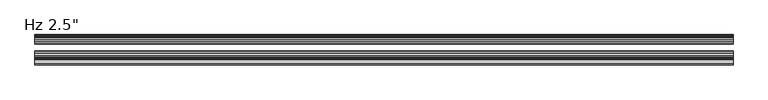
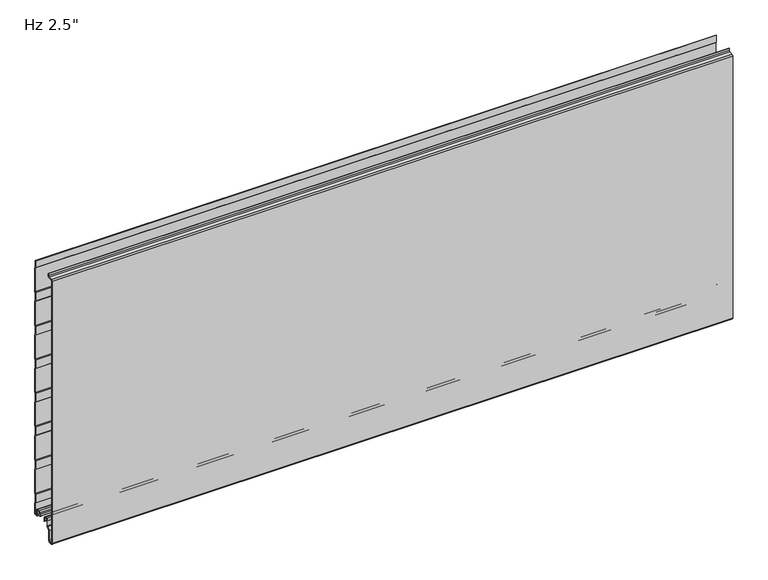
"""IFC4 building model written with IfcOpenShell, lengths in millimetres: plate geometry."""

from ifc_helpers import new_model, si_unit, point, frame, frame_2d, origin, place, context, project, spatial, polyline, circle_curve, trimmed, segment, composite_curve, outline, extrude, source, transform, mapped, element, save
from ifc_brep_helpers import plane_surface, cylinder_surface, revolved_surface, advanced_brep


def plate_c49b3873(model_context):
    return source(origin(), model_context, "Body", "SolidModel", [
        advanced_brep(
        [(-730.0, -17.0015368, 2.0313088), (-730.0, -18.00154, 1.0313116), (-730.0, -19.0015313, 2.0313088), (-730.0, -19.0015314, 6.0315125), (-730.0, -18.0015368, 6.0315125), (-730.0, -18.0015368, 8.7237223), (-730.0, -14.7015411, 12.023718), (-730.0, -10.3015499, 12.023718), (-730.0, -7.0015544, 8.7237225), (-730.0, -7.0015544, -1.6962564), (-730.0, -5.2315602, -3.4662506), (-730.0, -1.0000126, -3.4662506), (-730.0, -1.0000126, 21.034026), (-730.0, -2.2002516, 22.4196686), (-730.0, -2.2002516, 41.7948349), (-730.0, -1.0000209, 43.1804679), (-730.0, -1.0000209, 97.2338833), (-730.0, -2.2002516, 98.6195162), (-730.0, -2.2002516, 117.9946825), (-730.0, -1.0000209, 119.3803155), (-730.0, -1.0000209, 173.4337309), (-730.0, -2.2002516, 174.8193638), (-730.0, -2.2002516, 194.1945301), (-730.0, -1.0000209, 195.5801631), (-730.0, -1.0000209, 249.6335785), (-730.0, -2.2002516, 251.0192114), (-730.0, -2.2002516, 270.3943777), (-730.0, -1.0000209, 271.7800107), (-730.0, -1.0000209, 325.8334261), (-730.0, -2.2002516, 327.219059), (-730.0, -2.2002516, 346.5942253), (-730.0, -1.0000209, 347.9798583), (-730.0, -1.0000209, 402.0332737), (-730.0, -2.2002516, 403.4189066), (-730.0, -2.2002516, 422.7940729), (-730.0, -1.0000209, 424.1797059), (-730.0, -1.0000209, 478.2331213), (-730.0, -2.2002516, 479.6187542), (-730.0, -2.2002516, 498.9939205), (-730.0, -1.0000209, 500.3795535), (-730.0, -1.0000209, 554.4329689), (-730.0, -2.2002516, 555.8186018), (-730.0, -2.2002516, 571.2), (-730.0, -1.2002516, 571.2), (-730.0, -1.2002516, 556.1914823), (-730.0, -0.3418094, 555.2004346), (-730.0, -2.09e-05, 554.2838177), (-730.0, -2.09e-05, 500.5287046), (-730.0, -0.3418094, 499.6120877), (-730.0, -1.2002516, 498.6210401), (-730.0, -1.2002516, 479.9916347), (-730.0, -0.3418094, 479.000587), (-730.0, -2.09e-05, 478.0839701), (-730.0, -2.09e-05, 424.328857), (-730.0, -0.3418094, 423.4122401), (-730.0, -1.2002516, 422.4211925), (-730.0, -1.2002516, 403.7917871), (-730.0, -0.3418094, 402.8007394), (-730.0, -2.09e-05, 401.8841225), (-730.0, -2.09e-05, 348.1290094), (-730.0, -0.3418094, 347.2123925), (-730.0, -1.2002516, 346.2213449), (-730.0, -1.2002516, 327.5919395), (-730.0, -0.3418094, 326.6008918), (-730.0, -2.09e-05, 325.6842749), (-730.0, -2.09e-05, 271.9291618), (-730.0, -0.3418094, 271.0125449), (-730.0, -1.2002516, 270.0214973), (-730.0, -1.2002516, 251.3920919), (-730.0, -0.3418094, 250.4010442), (-730.0, -2.09e-05, 249.4844273), (-730.0, -2.09e-05, 195.7293142), (-730.0, -0.3418094, 194.8126973), (-730.0, -1.2002516, 193.8216497), (-730.0, -1.2002516, 175.1922443), (-730.0, -0.3418094, 174.2011966), (-730.0, -2.09e-05, 173.2845797), (-730.0, -2.09e-05, 119.5294666), (-730.0, -0.3418094, 118.6128497), (-730.0, -1.2002516, 117.6218021), (-730.0, -1.2002516, 98.9923967), (-730.0, -0.3418094, 98.001349), (-730.0, -2.09e-05, 97.0847321), (-730.0, -2.09e-05, 43.329619), (-730.0, -0.3418094, 42.4130021), (-730.0, -1.2002516, 41.4219545), (-730.0, -1.2002516, 22.7925491), (-730.0, -0.3418094, 21.8015014), (-730.0, -2.09e-05, 20.8847931), (-730.0, -1.26e-05, -3.0662545), (-730.0, -1.4000087, -4.4662506), (-730.0, -5.2315602, -4.4662506), (-730.0, -8.0015544, -1.6962564), (-730.0, -8.0015544, 8.7237225), (-730.0, -10.3015499, 11.023718), (-730.0, -14.7015411, 11.023718), (-730.0, -17.0015368, 8.7237223), (730.0, -17.0015368, 2.0313088), (730.0, -17.0015368, 8.7237223), (730.0, -14.7015411, 11.023718), (730.0, -10.3015499, 11.023718), (730.0, -8.0015544, 8.7237225), (730.0, -8.0015544, -1.6962564), (730.0, -5.2315602, -4.4662506), (730.0, -1.4000087, -4.4662506), (730.0, -1.26e-05, -3.0662545), (730.0, -1.26e-05, 20.8848845), (730.0, -0.3418094, 21.8015014), (730.0, -1.2002516, 22.7925491), (730.0, -1.2002516, 41.4219545), (730.0, -0.3418094, 42.4130021), (730.0, -2.09e-05, 43.329619), (730.0, -2.09e-05, 97.0847321), (730.0, -0.3418094, 98.001349), (730.0, -1.2002516, 98.9923967), (730.0, -1.2002516, 117.6218021), (730.0, -0.3418094, 118.6128497), (730.0, -2.09e-05, 119.5294666), (730.0, -2.09e-05, 173.2845797), (730.0, -0.3418094, 174.2011966), (730.0, -1.2002516, 175.1922443), (730.0, -1.2002516, 193.8216497), (730.0, -0.3418094, 194.8126973), (730.0, -2.09e-05, 195.7293142), (730.0, -2.09e-05, 249.4844273), (730.0, -0.3418094, 250.4010442), (730.0, -1.2002516, 251.3920919), (730.0, -1.2002516, 270.0214973), (730.0, -0.3418094, 271.0125449), (730.0, -2.09e-05, 271.9291618), (730.0, -2.09e-05, 325.6842749), (730.0, -0.3418094, 326.6008918), (730.0, -1.2002516, 327.5919395), (730.0, -1.2002516, 346.2213449), (730.0, -0.3418094, 347.2123925), (730.0, -2.09e-05, 348.1290094), (730.0, -2.09e-05, 401.8841225), (730.0, -0.3418094, 402.8007394), (730.0, -1.2002516, 403.7917871), (730.0, -1.2002516, 422.4211925), (730.0, -0.3418094, 423.4122401), (730.0, -2.09e-05, 424.328857), (730.0, -2.09e-05, 478.0839701), (730.0, -0.3418094, 479.000587), (730.0, -1.2002516, 479.9916347), (730.0, -1.2002516, 498.6210401), (730.0, -0.3418094, 499.6120877), (730.0, -2.09e-05, 500.5287046), (730.0, -2.09e-05, 554.2838177), (730.0, -0.3418094, 555.2004346), (730.0, -1.2002516, 556.1914823), (730.0, -1.2002516, 571.2), (730.0, -2.2002516, 571.2), (730.0, -2.2002516, 555.8186018), (730.0, -1.0000209, 554.4329689), (730.0, -1.0000209, 500.3795535), (730.0, -2.2002516, 498.9939205), (730.0, -2.2002516, 479.6187542), (730.0, -1.0000209, 478.2331213), (730.0, -1.0000209, 424.1797059), (730.0, -2.2002516, 422.7940729), (730.0, -2.2002516, 403.4189066), (730.0, -1.0000209, 402.0332737), (730.0, -1.0000209, 347.9798583), (730.0, -2.2002516, 346.5942253), (730.0, -2.2002516, 327.219059), (730.0, -1.0000209, 325.8334261), (730.0, -1.0000209, 271.7800107), (730.0, -2.2002516, 270.3943777), (730.0, -2.2002516, 251.0192114), (730.0, -1.0000209, 249.6335785), (730.0, -1.0000209, 195.5801631), (730.0, -2.2002516, 194.1945301), (730.0, -2.2002516, 174.8193638), (730.0, -1.0000209, 173.4337309), (730.0, -1.0000209, 119.3803155), (730.0, -2.2002516, 117.9946825), (730.0, -2.2002516, 98.6195162), (730.0, -1.0000209, 97.2338833), (730.0, -1.0000209, 43.1804679), (730.0, -2.2002516, 41.7948349), (730.0, -2.2002516, 22.4196686), (730.0, -1.0000126, 21.034026), (730.0, -1.0000126, -3.4662506), (730.0, -5.2315602, -3.4662506), (730.0, -7.0015544, -1.6962564), (730.0, -7.0015544, 8.7237225), (730.0, -10.3015499, 12.023718), (730.0, -14.7015411, 12.023718), (730.0, -18.0015368, 8.7237223), (730.0, -18.0015368, 6.0315125), (730.0, -19.0015314, 6.0315125), (730.0, -19.0015314, 2.0313088), (730.0, -18.00154, 1.0313116)],
        [
            (0, 1, circle_curve(frame((-730.0, -18.0015341, 2.0313088), z_axis=(-1.0, 0.0, 0.0), x_axis=(0.0, 0.0, 1.0)), 0.9999973)),
            (1, 2, circle_curve(frame((-730.0, -18.0015341, 2.0313088), z_axis=(-1.0, 0.0, 0.0), x_axis=(0.0, 0.0, 1.0)), 0.9999972)),
            (2, 3),
            (3, 4),
            (4, 5),
            (5, 6, circle_curve(frame((-730.0, -14.7015411, 8.7237223), z_axis=(-1.0, 0.0, 0.0), x_axis=(0.0, 0.0, 1.0)), 3.2999957)),
            (6, 7),
            (7, 8, circle_curve(frame((-730.0, -10.3015499, 8.7237225), z_axis=(-1.0, 0.0, 0.0), x_axis=(0.0, 0.0, 1.0)), 3.2999955)),
            (8, 9),
            (9, 10, circle_curve(frame((-730.0, -5.2315602, -1.6962564), z_axis=(1.0, 0.0, 0.0), x_axis=(0.0, 0.0, 1.0)), 1.7699942)),
            (10, 11),
            (11, 12),
            (12, 13),
            (13, 14),
            (14, 15),
            (15, 16),
            (16, 17),
            (17, 18),
            (18, 19),
            (19, 20),
            (20, 21),
            (21, 22),
            (22, 23),
            (23, 24),
            (24, 25),
            (25, 26),
            (26, 27),
            (27, 28),
            (28, 29),
            (29, 30),
            (30, 31),
            (31, 32),
            (32, 33),
            (33, 34),
            (34, 35),
            (35, 36),
            (36, 37),
            (37, 38),
            (38, 39),
            (39, 40),
            (40, 41),
            (41, 42),
            (42, 43),
            (43, 44),
            (44, 45),
            (45, 46, circle_curve(frame((-730.0, -1.4000181, 554.2838177), z_axis=(-1.0, 0.0, 0.0), x_axis=(0.0, 0.0, 1.0)), 1.3999972)),
            (46, 47),
            (47, 48, circle_curve(frame((-730.0, -1.4000181, 500.5287046), z_axis=(-1.0, 0.0, 0.0), x_axis=(0.0, 0.0, 1.0)), 1.3999972)),
            (48, 49),
            (49, 50),
            (50, 51),
            (51, 52, circle_curve(frame((-730.0, -1.4000181, 478.0839701), z_axis=(-1.0, 0.0, 0.0), x_axis=(0.0, 0.0, 1.0)), 1.3999972)),
            (52, 53),
            (53, 54, circle_curve(frame((-730.0, -1.4000181, 424.328857), z_axis=(-1.0, 0.0, 0.0), x_axis=(0.0, 0.0, 1.0)), 1.3999972)),
            (54, 55),
            (55, 56),
            (56, 57),
            (57, 58, circle_curve(frame((-730.0, -1.4000181, 401.8841225), z_axis=(-1.0, 0.0, 0.0), x_axis=(0.0, 0.0, 1.0)), 1.3999972)),
            (58, 59),
            (59, 60, circle_curve(frame((-730.0, -1.4000181, 348.1290094), z_axis=(-1.0, 0.0, 0.0), x_axis=(0.0, 0.0, 1.0)), 1.3999972)),
            (60, 61),
            (61, 62),
            (62, 63),
            (63, 64, circle_curve(frame((-730.0, -1.4000181, 325.6842749), z_axis=(-1.0, 0.0, 0.0), x_axis=(0.0, 0.0, 1.0)), 1.3999972)),
            (64, 65),
            (65, 66, circle_curve(frame((-730.0, -1.4000181, 271.9291618), z_axis=(-1.0, 0.0, 0.0), x_axis=(0.0, 0.0, 1.0)), 1.3999972)),
            (66, 67),
            (67, 68),
            (68, 69),
            (69, 70, circle_curve(frame((-730.0, -1.4000181, 249.4844273), z_axis=(-1.0, 0.0, 0.0), x_axis=(0.0, 0.0, 1.0)), 1.3999972)),
            (70, 71),
            (71, 72, circle_curve(frame((-730.0, -1.4000181, 195.7293142), z_axis=(-1.0, 0.0, 0.0), x_axis=(0.0, 0.0, 1.0)), 1.3999972)),
            (72, 73),
            (73, 74),
            (74, 75),
            (75, 76, circle_curve(frame((-730.0, -1.4000181, 173.2845797), z_axis=(-1.0, 0.0, 0.0), x_axis=(0.0, 0.0, 1.0)), 1.3999972)),
            (76, 77),
            (77, 78, circle_curve(frame((-730.0, -1.4000181, 119.5294666), z_axis=(-1.0, 0.0, 0.0), x_axis=(0.0, 0.0, 1.0)), 1.3999972)),
            (78, 79),
            (79, 80),
            (80, 81),
            (81, 82, circle_curve(frame((-730.0, -1.4000181, 97.0847321), z_axis=(-1.0, 0.0, 0.0), x_axis=(0.0, 0.0, 1.0)), 1.3999972)),
            (82, 83),
            (83, 84, circle_curve(frame((-730.0, -1.4000181, 43.329619), z_axis=(-1.0, 0.0, 0.0), x_axis=(0.0, 0.0, 1.0)), 1.3999972)),
            (84, 85),
            (85, 86),
            (86, 87),
            (87, 88, circle_curve(frame((-730.0, -1.4000181, 20.8848845), z_axis=(-1.0, 0.0, 0.0), x_axis=(0.0, 0.0, 1.0)), 1.3999972)),
            (88, 89),
            (89, 90, circle_curve(frame((-730.0, -1.4000087, -3.0662545), z_axis=(-1.0, 0.0, 0.0), x_axis=(0.0, 0.0, 1.0)), 1.3999962)),
            (90, 91),
            (91, 92, circle_curve(frame((-730.0, -5.2315602, -1.6962564), z_axis=(-1.0, 0.0, 0.0), x_axis=(0.0, 0.0, 1.0)), 2.7699942)),
            (92, 93),
            (93, 94, circle_curve(frame((-730.0, -10.3015499, 8.7237225), z_axis=(1.0, 0.0, 0.0), x_axis=(0.0, 0.0, 1.0)), 2.2999955)),
            (94, 95),
            (95, 96, circle_curve(frame((-730.0, -14.7015411, 8.7237223), z_axis=(1.0, 0.0, 0.0), x_axis=(0.0, 0.0, 1.0)), 2.2999957)),
            (96, 0),
            (97, 98),
            (98, 99, circle_curve(frame((730.0, -14.7015411, 8.7237223), z_axis=(-1.0, 0.0, 0.0), x_axis=(0.0, 0.0, 1.0)), 2.2999957)),
            (99, 100),
            (100, 101, circle_curve(frame((730.0, -10.3015499, 8.7237225), z_axis=(-1.0, 0.0, 0.0), x_axis=(0.0, 0.0, 1.0)), 2.2999955)),
            (101, 102),
            (102, 103, circle_curve(frame((730.0, -5.2315602, -1.6962564), z_axis=(1.0, 0.0, 0.0), x_axis=(0.0, 0.0, 1.0)), 2.7699942)),
            (103, 104),
            (104, 105, circle_curve(frame((730.0, -1.4000087, -3.0662545), z_axis=(1.0, 0.0, 0.0), x_axis=(0.0, 0.0, 1.0)), 1.3999962)),
            (105, 106),
            (106, 107, circle_curve(frame((730.0, -1.4000181, 20.8848845), z_axis=(1.0, 0.0, 0.0), x_axis=(0.0, 0.0, 1.0)), 1.3999972)),
            (107, 108),
            (108, 109),
            (109, 110),
            (110, 111, circle_curve(frame((730.0, -1.4000181, 43.329619), z_axis=(1.0, 0.0, 0.0), x_axis=(0.0, 0.0, 1.0)), 1.3999972)),
            (111, 112),
            (112, 113, circle_curve(frame((730.0, -1.4000181, 97.0847321), z_axis=(1.0, 0.0, 0.0), x_axis=(0.0, 0.0, 1.0)), 1.3999972)),
            (113, 114),
            (114, 115),
            (115, 116),
            (116, 117, circle_curve(frame((730.0, -1.4000181, 119.5294666), z_axis=(1.0, 0.0, 0.0), x_axis=(0.0, 0.0, 1.0)), 1.3999972)),
            (117, 118),
            (118, 119, circle_curve(frame((730.0, -1.4000181, 173.2845797), z_axis=(1.0, 0.0, 0.0), x_axis=(0.0, 0.0, 1.0)), 1.3999972)),
            (119, 120),
            (120, 121),
            (121, 122),
            (122, 123, circle_curve(frame((730.0, -1.4000181, 195.7293142), z_axis=(1.0, 0.0, 0.0), x_axis=(0.0, 0.0, 1.0)), 1.3999972)),
            (123, 124),
            (124, 125, circle_curve(frame((730.0, -1.4000181, 249.4844273), z_axis=(1.0, 0.0, 0.0), x_axis=(0.0, 0.0, 1.0)), 1.3999972)),
            (125, 126),
            (126, 127),
            (127, 128),
            (128, 129, circle_curve(frame((730.0, -1.4000181, 271.9291618), z_axis=(1.0, 0.0, 0.0), x_axis=(0.0, 0.0, 1.0)), 1.3999972)),
            (129, 130),
            (130, 131, circle_curve(frame((730.0, -1.4000181, 325.6842749), z_axis=(1.0, 0.0, 0.0), x_axis=(0.0, 0.0, 1.0)), 1.3999972)),
            (131, 132),
            (132, 133),
            (133, 134),
            (134, 135, circle_curve(frame((730.0, -1.4000181, 348.1290094), z_axis=(1.0, 0.0, 0.0), x_axis=(0.0, 0.0, 1.0)), 1.3999972)),
            (135, 136),
            (136, 137, circle_curve(frame((730.0, -1.4000181, 401.8841225), z_axis=(1.0, 0.0, 0.0), x_axis=(0.0, 0.0, 1.0)), 1.3999972)),
            (137, 138),
            (138, 139),
            (139, 140),
            (140, 141, circle_curve(frame((730.0, -1.4000181, 424.328857), z_axis=(1.0, 0.0, 0.0), x_axis=(0.0, 0.0, 1.0)), 1.3999972)),
            (141, 142),
            (142, 143, circle_curve(frame((730.0, -1.4000181, 478.0839701), z_axis=(1.0, 0.0, 0.0), x_axis=(0.0, 0.0, 1.0)), 1.3999972)),
            (143, 144),
            (144, 145),
            (145, 146),
            (146, 147, circle_curve(frame((730.0, -1.4000181, 500.5287046), z_axis=(1.0, 0.0, 0.0), x_axis=(0.0, 0.0, 1.0)), 1.3999972)),
            (147, 148),
            (148, 149, circle_curve(frame((730.0, -1.4000181, 554.2838177), z_axis=(1.0, 0.0, 0.0), x_axis=(0.0, 0.0, 1.0)), 1.3999972)),
            (149, 150),
            (150, 151),
            (151, 152),
            (152, 153),
            (153, 154),
            (154, 155),
            (155, 156),
            (156, 157),
            (157, 158),
            (158, 159),
            (159, 160),
            (160, 161),
            (161, 162),
            (162, 163),
            (163, 164),
            (164, 165),
            (165, 166),
            (166, 167),
            (167, 168),
            (168, 169),
            (169, 170),
            (170, 171),
            (171, 172),
            (172, 173),
            (173, 174),
            (174, 175),
            (175, 176),
            (176, 177),
            (177, 178),
            (178, 179),
            (179, 180),
            (180, 181),
            (181, 182),
            (182, 183),
            (183, 184),
            (184, 185, circle_curve(frame((730.0, -5.2315602, -1.6962564), z_axis=(-1.0, 0.0, 0.0), x_axis=(0.0, 0.0, 1.0)), 1.7699942)),
            (185, 186),
            (186, 187, circle_curve(frame((730.0, -10.3015499, 8.7237225), z_axis=(1.0, 0.0, 0.0), x_axis=(0.0, 0.0, 1.0)), 3.2999955)),
            (187, 188),
            (188, 189, circle_curve(frame((730.0, -14.7015411, 8.7237223), z_axis=(1.0, 0.0, 0.0), x_axis=(0.0, 0.0, 1.0)), 3.2999957)),
            (189, 190),
            (190, 191),
            (191, 192),
            (192, 193, circle_curve(frame((730.0, -18.0015341, 2.0313088), z_axis=(1.0, 0.0, 0.0), x_axis=(0.0, 0.0, 1.0)), 0.9999972)),
            (193, 97, circle_curve(frame((730.0, -18.0015341, 2.0313088), z_axis=(1.0, 0.0, 0.0), x_axis=(0.0, 0.0, 1.0)), 0.9999973)),
            (96, 98),
            (97, 0),
            (95, 99),
            (94, 100),
            (93, 101),
            (92, 102),
            (91, 103),
            (90, 104),
            (89, 105),
            (88, 106),
            (70, 124),
            (123, 71),
            (87, 107),
            (86, 108),
            (85, 109),
            (83, 111),
            (110, 84),
            (81, 113),
            (112, 82),
            (66, 128),
            (127, 67),
            (122, 72),
            (121, 73),
            (76, 118),
            (117, 77),
            (69, 125),
            (68, 126),
            (65, 129),
            (116, 78),
            (79, 115),
            (114, 80),
            (75, 119),
            (74, 120),
            (2, 192),
            (191, 3),
            (1, 193),
            (64, 130),
            (63, 131),
            (62, 132),
            (61, 133),
            (60, 134),
            (59, 135),
            (58, 136),
            (31, 163),
            (162, 32),
            (30, 164),
            (29, 165),
            (28, 166),
            (27, 167),
            (26, 168),
            (25, 169),
            (24, 170),
            (23, 171),
            (22, 172),
            (21, 173),
            (20, 174),
            (19, 175),
            (18, 176),
            (17, 177),
            (16, 178),
            (15, 179),
            (14, 180),
            (13, 181),
            (12, 182),
            (11, 183),
            (10, 184),
            (9, 185),
            (8, 186),
            (7, 187),
            (6, 188),
            (5, 189),
            (4, 190),
            (42, 152),
            (151, 43),
            (57, 137),
            (56, 138),
            (55, 139),
            (54, 140),
            (53, 141),
            (52, 142),
            (51, 143),
            (50, 144),
            (49, 145),
            (48, 146),
            (47, 147),
            (46, 148),
            (45, 149),
            (44, 150),
            (41, 153),
            (40, 154),
            (39, 155),
            (38, 156),
            (37, 157),
            (36, 158),
            (35, 159),
            (34, 160),
            (33, 161),
        ],
        [
            plane_surface(frame((-730.0, -2.09e-05, 304.8), z_axis=(-1.0, 0.0, 0.0), x_axis=(0.0, 1.0, 0.0))),
            plane_surface(frame((730.0, -2.09e-05, 304.8), z_axis=(1.0, 0.0, 0.0), x_axis=(0.0, 1.0, 0.0))),
            plane_surface(frame((-730.0, -17.0015368, 2.0313088), z_axis=(0.0, 1.0, 0.0), x_axis=(1.0, 0.0, 0.0))),
            revolved_surface(polyline([(730.0, -14.7015411, 11.023718), (-730.0, -14.7015411, 11.023718)]), (-730.0, -14.7015411, 8.7237223), (1.0, 0.0, 0.0)),
            plane_surface(frame((-730.0, -14.7015411, 11.023718), z_axis=(0.0, 0.0, -1.0), x_axis=(1.0, 0.0, 0.0))),
            revolved_surface(polyline([(730.0, -10.3015499, 11.023717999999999), (-730.0, -10.3015499, 11.023717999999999)]), (-730.0, -10.3015499, 8.7237225), (1.0, 0.0, 0.0)),
            plane_surface(frame((-730.0, -8.0015544, 8.7237225), z_axis=(0.0, -1.0, 0.0), x_axis=(1.0, 0.0, 0.0))),
            cylinder_surface(frame((-730.0, -5.2315602, -1.6962564), z_axis=(-1.0, 0.0, 0.0), x_axis=(0.0, 0.0, 1.0)), 2.7699942),
            plane_surface(frame((-730.0, -5.2315602, -4.4662506), z_axis=(0.0, 0.0, -1.0), x_axis=(1.0, 0.0, 0.0))),
            cylinder_surface(frame((-730.0, -1.4000087, -3.0662545), z_axis=(-1.0, 0.0, 0.0), x_axis=(0.0, 0.0, 1.0)), 1.3999962),
            plane_surface(frame((-730.0, -1.26e-05, -3.0662545), z_axis=(0.0, 1.0, 0.0), x_axis=(1.0, 0.0, 0.0))),
            plane_surface(frame((-730.0, -2.09e-05, 195.7293142), z_axis=(0.0, 1.0, 0.0), x_axis=(1.0, 0.0, 0.0))),
            cylinder_surface(frame((-730.0, -1.4000181, 20.8848845), z_axis=(-1.0, 0.0, 0.0), x_axis=(0.0, 0.0, 1.0)), 1.3999972),
            plane_surface(frame((-730.0, -0.3418094, 21.8015014), z_axis=(0.0, 0.755864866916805, 0.6547276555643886), x_axis=(1.0, 0.0, 0.0))),
            plane_surface(frame((-730.0, -1.2002516, 32.1072518), z_axis=(0.0, 1.0, 0.0), x_axis=(1.0, 0.0, 0.0))),
            cylinder_surface(frame((-730.0, -1.4000181, 43.329619), z_axis=(-1.0, 0.0, 0.0), x_axis=(0.0, 0.0, 1.0)), 1.3999972),
            plane_surface(frame((-730.0, -1.2002516, 41.4219545), z_axis=(0.0, 0.755864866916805, -0.6547276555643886), x_axis=(1.0, 0.0, 0.0))),
            cylinder_surface(frame((-730.0, -1.4000181, 97.0847321), z_axis=(-1.0, 0.0, 0.0), x_axis=(0.0, 0.0, 1.0)), 1.3999972),
            plane_surface(frame((-730.0, -1.2002516, 270.0214973), z_axis=(0.0, 0.755864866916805, -0.6547276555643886), x_axis=(1.0, 0.0, 0.0))),
            cylinder_surface(frame((-730.0, -1.4000181, 195.7293142), z_axis=(-1.0, 0.0, 0.0), x_axis=(0.0, 0.0, 1.0)), 1.3999972),
            plane_surface(frame((-730.0, -1.2002516, 193.8216497), z_axis=(0.0, 0.755864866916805, -0.6547276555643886), x_axis=(1.0, 0.0, 0.0))),
            plane_surface(frame((-730.0, -2.09e-05, 119.5294666), z_axis=(0.0, 1.0, 0.0), x_axis=(1.0, 0.0, 0.0))),
            cylinder_surface(frame((-730.0, -1.4000181, 249.4844273), z_axis=(-1.0, 0.0, 0.0), x_axis=(0.0, 0.0, 1.0)), 1.3999972),
            plane_surface(frame((-730.0, -0.3418094, 250.4010442), z_axis=(0.0, 0.755864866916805, 0.6547276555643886), x_axis=(1.0, 0.0, 0.0))),
            plane_surface(frame((-730.0, -1.2002516, 260.7067946), z_axis=(0.0, 1.0, 0.0), x_axis=(1.0, 0.0, 0.0))),
            cylinder_surface(frame((-730.0, -1.4000181, 271.9291618), z_axis=(-1.0, 0.0, 0.0), x_axis=(0.0, 0.0, 1.0)), 1.3999972),
            cylinder_surface(frame((-730.0, -1.4000181, 119.5294666), z_axis=(-1.0, 0.0, 0.0), x_axis=(0.0, 0.0, 1.0)), 1.3999972),
            plane_surface(frame((-730.0, -1.2002516, 108.3070994), z_axis=(0.0, 1.0, 0.0), x_axis=(1.0, 0.0, 0.0))),
            plane_surface(frame((-730.0, -0.3418094, 98.001349), z_axis=(0.0, 0.755864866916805, 0.6547276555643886), x_axis=(1.0, 0.0, 0.0))),
            plane_surface(frame((-730.0, -1.2002516, 117.6218021), z_axis=(0.0, 0.755864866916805, -0.6547276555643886), x_axis=(1.0, 0.0, 0.0))),
            plane_surface(frame((-730.0, -2.09e-05, 43.329619), z_axis=(0.0, 1.0, 0.0), x_axis=(1.0, 0.0, 0.0))),
            cylinder_surface(frame((-730.0, -1.4000181, 173.2845797), z_axis=(-1.0, 0.0, 0.0), x_axis=(0.0, 0.0, 1.0)), 1.3999972),
            plane_surface(frame((-730.0, -0.3418094, 174.2011966), z_axis=(0.0, 0.755864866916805, 0.6547276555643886), x_axis=(1.0, 0.0, 0.0))),
            plane_surface(frame((-730.0, -1.2002516, 184.506947), z_axis=(0.0, 1.0, 0.0), x_axis=(1.0, 0.0, 0.0))),
            plane_surface(frame((-730.0, -19.0015314, 6.0315125), z_axis=(0.0, -1.0, 0.0), x_axis=(1.0, 0.0, 0.0))),
            cylinder_surface(frame((-730.0, -18.0015341, 2.0313088), z_axis=(-1.0, 0.0, 0.0), x_axis=(0.0, 0.0, 1.0)), 0.9999972),
            cylinder_surface(frame((-730.0, -18.0015341, 2.0313088), z_axis=(-1.0, 0.0, 0.0), x_axis=(0.0, 0.0, 1.0)), 0.9999973),
            plane_surface(frame((-730.0, -2.09e-05, 271.9291618), z_axis=(0.0, 1.0, 0.0), x_axis=(1.0, 0.0, 0.0))),
            cylinder_surface(frame((-730.0, -1.4000181, 325.6842749), z_axis=(-1.0, 0.0, 0.0), x_axis=(0.0, 0.0, 1.0)), 1.3999972),
            plane_surface(frame((-730.0, -0.3418094, 326.6008918), z_axis=(0.0, 0.755864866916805, 0.6547276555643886), x_axis=(1.0, 0.0, 0.0))),
            plane_surface(frame((-730.0, -1.2002516, 336.9066422), z_axis=(0.0, 1.0, 0.0), x_axis=(1.0, 0.0, 0.0))),
            plane_surface(frame((-730.0, -1.2002516, 346.2213449), z_axis=(0.0, 0.755864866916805, -0.6547276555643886), x_axis=(1.0, 0.0, 0.0))),
            cylinder_surface(frame((-730.0, -1.4000181, 348.1290094), z_axis=(-1.0, 0.0, 0.0), x_axis=(0.0, 0.0, 1.0)), 1.3999972),
            plane_surface(frame((-730.0, -2.09e-05, 348.1290094), z_axis=(0.0, 1.0, 0.0), x_axis=(1.0, 0.0, 0.0))),
            plane_surface(frame((-730.0, -1.0000209, 402.0332737), z_axis=(0.0, -1.0, 0.0), x_axis=(1.0, 0.0, 0.0))),
            plane_surface(frame((-730.0, -1.0000209, 347.9798583), z_axis=(0.0, -0.755864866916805, 0.6547276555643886), x_axis=(1.0, 0.0, 0.0))),
            plane_surface(frame((-730.0, -2.2002516, 346.5942253), z_axis=(0.0, -1.0, 0.0), x_axis=(1.0, 0.0, 0.0))),
            plane_surface(frame((-730.0, -2.2002516, 327.219059), z_axis=(0.0, -0.755864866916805, -0.6547276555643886), x_axis=(1.0, 0.0, 0.0))),
            plane_surface(frame((-730.0, -1.0000209, 325.8334261), z_axis=(0.0, -1.0, 0.0), x_axis=(1.0, 0.0, 0.0))),
            plane_surface(frame((-730.0, -1.0000209, 271.7800107), z_axis=(0.0, -0.755864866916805, 0.6547276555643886), x_axis=(1.0, 0.0, 0.0))),
            plane_surface(frame((-730.0, -2.2002516, 270.3943777), z_axis=(0.0, -1.0, 0.0), x_axis=(1.0, 0.0, 0.0))),
            plane_surface(frame((-730.0, -2.2002516, 251.0192114), z_axis=(0.0, -0.755864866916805, -0.6547276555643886), x_axis=(1.0, 0.0, 0.0))),
            plane_surface(frame((-730.0, -1.0000209, 249.6335785), z_axis=(0.0, -1.0, 0.0), x_axis=(1.0, 0.0, 0.0))),
            plane_surface(frame((-730.0, -1.0000209, 195.5801631), z_axis=(0.0, -0.755864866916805, 0.6547276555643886), x_axis=(1.0, 0.0, 0.0))),
            plane_surface(frame((-730.0, -2.2002516, 194.1945301), z_axis=(0.0, -1.0, 0.0), x_axis=(1.0, 0.0, 0.0))),
            plane_surface(frame((-730.0, -2.2002516, 174.8193638), z_axis=(0.0, -0.755864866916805, -0.6547276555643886), x_axis=(1.0, 0.0, 0.0))),
            plane_surface(frame((-730.0, -1.0000209, 173.4337309), z_axis=(0.0, -1.0, 0.0), x_axis=(1.0, 0.0, 0.0))),
            plane_surface(frame((-730.0, -1.0000209, 119.3803155), z_axis=(0.0, -0.755864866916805, 0.6547276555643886), x_axis=(1.0, 0.0, 0.0))),
            plane_surface(frame((-730.0, -2.2002516, 117.9946825), z_axis=(0.0, -1.0, 0.0), x_axis=(1.0, 0.0, 0.0))),
            plane_surface(frame((-730.0, -2.2002516, 98.6195162), z_axis=(0.0, -0.755864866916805, -0.6547276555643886), x_axis=(1.0, 0.0, 0.0))),
            plane_surface(frame((-730.0, -1.0000209, 97.2338833), z_axis=(0.0, -1.0, 0.0), x_axis=(1.0, 0.0, 0.0))),
            plane_surface(frame((-730.0, -1.0000209, 43.1804679), z_axis=(0.0, -0.755864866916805, 0.6547276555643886), x_axis=(1.0, 0.0, 0.0))),
            plane_surface(frame((-730.0, -2.2002516, 41.7948349), z_axis=(0.0, -1.0, 0.0), x_axis=(1.0, 0.0, 0.0))),
            plane_surface(frame((-730.0, -2.2002516, 22.4196686), z_axis=(0.0, -0.755864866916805, -0.6547276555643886), x_axis=(1.0, 0.0, 0.0))),
            plane_surface(frame((-730.0, -1.0000126, 21.034026), z_axis=(0.0, -1.0, 0.0), x_axis=(1.0, 0.0, 0.0))),
            plane_surface(frame((-730.0, -1.0000126, -3.4662506), z_axis=(0.0, 0.0, 1.0), x_axis=(1.0, 0.0, 0.0))),
            revolved_surface(polyline([(730.0, -5.2315602, 0.07373779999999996), (-730.0, -5.2315602, 0.07373779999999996)]), (-730.0, -5.2315602, -1.6962564), (1.0, 0.0, 0.0)),
            plane_surface(frame((-730.0, -7.0015544, -1.6962564), z_axis=(0.0, 1.0, 0.0), x_axis=(1.0, 0.0, 0.0))),
            cylinder_surface(frame((-730.0, -10.3015499, 8.7237225), z_axis=(-1.0, 0.0, 0.0), x_axis=(0.0, 0.0, 1.0)), 3.2999955),
            plane_surface(frame((-730.0, -10.3015499, 12.023718), z_axis=(0.0, 0.0, 1.0), x_axis=(1.0, 0.0, 0.0))),
            cylinder_surface(frame((-730.0, -14.7015411, 8.7237223), z_axis=(-1.0, 0.0, 0.0), x_axis=(0.0, 0.0, 1.0)), 3.2999957),
            plane_surface(frame((-730.0, -18.0015368, 8.7237223), z_axis=(0.0, -1.0, 0.0), x_axis=(1.0, 0.0, 0.0))),
            plane_surface(frame((-730.0, -18.0015368, 6.0315125), z_axis=(0.0, 0.0, 1.0), x_axis=(1.0, 0.0, 0.0))),
            plane_surface(frame((730.0, 9.9999791, 571.2), z_axis=(0.0, 0.0, 1.0), x_axis=(-1.0, 0.0, 0.0))),
            cylinder_surface(frame((-730.0, -1.4000181, 401.8841225), z_axis=(-1.0, 0.0, 0.0), x_axis=(0.0, 0.0, 1.0)), 1.3999972),
            plane_surface(frame((-730.0, -0.3418094, 402.8007394), z_axis=(0.0, 0.755864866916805, 0.6547276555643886), x_axis=(1.0, 0.0, 0.0))),
            plane_surface(frame((-730.0, -1.2002516, 413.1064898), z_axis=(0.0, 1.0, 0.0), x_axis=(1.0, 0.0, 0.0))),
            plane_surface(frame((-730.0, -1.2002516, 422.4211925), z_axis=(0.0, 0.755864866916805, -0.6547276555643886), x_axis=(1.0, 0.0, 0.0))),
            cylinder_surface(frame((-730.0, -1.4000181, 424.328857), z_axis=(-1.0, 0.0, 0.0), x_axis=(0.0, 0.0, 1.0)), 1.3999972),
            plane_surface(frame((-730.0, -2.09e-05, 424.328857), z_axis=(0.0, 1.0, 0.0), x_axis=(1.0, 0.0, 0.0))),
            cylinder_surface(frame((-730.0, -1.4000181, 478.0839701), z_axis=(-1.0, 0.0, 0.0), x_axis=(0.0, 0.0, 1.0)), 1.3999972),
            plane_surface(frame((-730.0, -0.3418094, 479.000587), z_axis=(0.0, 0.755864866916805, 0.6547276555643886), x_axis=(1.0, 0.0, 0.0))),
            plane_surface(frame((-730.0, -1.2002516, 489.3063374), z_axis=(0.0, 1.0, 0.0), x_axis=(1.0, 0.0, 0.0))),
            plane_surface(frame((-730.0, -1.2002516, 498.6210401), z_axis=(0.0, 0.755864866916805, -0.6547276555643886), x_axis=(1.0, 0.0, 0.0))),
            cylinder_surface(frame((-730.0, -1.4000181, 500.5287046), z_axis=(-1.0, 0.0, 0.0), x_axis=(0.0, 0.0, 1.0)), 1.3999972),
            plane_surface(frame((-730.0, -2.09e-05, 500.5287046), z_axis=(0.0, 1.0, 0.0), x_axis=(1.0, 0.0, 0.0))),
            cylinder_surface(frame((-730.0, -1.4000181, 554.2838177), z_axis=(-1.0, 0.0, 0.0), x_axis=(0.0, 0.0, 1.0)), 1.3999972),
            plane_surface(frame((-730.0, -0.3418094, 555.2004346), z_axis=(0.0, 0.755864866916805, 0.6547276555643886), x_axis=(1.0, 0.0, 0.0))),
            plane_surface(frame((-730.0, -1.2002516, 565.506185), z_axis=(0.0, 1.0, 0.0), x_axis=(1.0, 0.0, 0.0))),
            plane_surface(frame((-730.0, -2.2002516, 575.1937681), z_axis=(0.0, -1.0, 0.0), x_axis=(1.0, 0.0, 0.0))),
            plane_surface(frame((-730.0, -2.2002516, 555.8186018), z_axis=(0.0, -0.755864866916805, -0.6547276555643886), x_axis=(1.0, 0.0, 0.0))),
            plane_surface(frame((-730.0, -1.0000209, 554.4329689), z_axis=(0.0, -1.0, 0.0), x_axis=(1.0, 0.0, 0.0))),
            plane_surface(frame((-730.0, -1.0000209, 500.3795535), z_axis=(0.0, -0.755864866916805, 0.6547276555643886), x_axis=(1.0, 0.0, 0.0))),
            plane_surface(frame((-730.0, -2.2002516, 498.9939205), z_axis=(0.0, -1.0, 0.0), x_axis=(1.0, 0.0, 0.0))),
            plane_surface(frame((-730.0, -2.2002516, 479.6187542), z_axis=(0.0, -0.755864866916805, -0.6547276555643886), x_axis=(1.0, 0.0, 0.0))),
            plane_surface(frame((-730.0, -1.0000209, 478.2331213), z_axis=(0.0, -1.0, 0.0), x_axis=(1.0, 0.0, 0.0))),
            plane_surface(frame((-730.0, -1.0000209, 424.1797059), z_axis=(0.0, -0.755864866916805, 0.6547276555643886), x_axis=(1.0, 0.0, 0.0))),
            plane_surface(frame((-730.0, -2.2002516, 422.7940729), z_axis=(0.0, -1.0, 0.0), x_axis=(1.0, 0.0, 0.0))),
            plane_surface(frame((-730.0, -2.2002516, 403.4189066), z_axis=(0.0, -0.755864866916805, -0.6547276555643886), x_axis=(1.0, 0.0, 0.0))),
        ],
        [
            (0, [[1, 2, 3, 4, 5, 6, 7, 8, 9, 10, 11, 12, 13, 14, 15, 16, 17, 18, 19, 20, 21, 22, 23, 24, 25, 26, 27, 28, 29, 30, 31, 32, 33, 34, 35, 36, 37, 38, 39, 40, 41, 42, 43, 44, 45, 46, 47, 48, 49, 50, 51, 52, 53, 54, 55, 56, 57, 58, 59, 60, 61, 62, 63, 64, 65, 66, 67, 68, 69, 70, 71, 72, 73, 74, 75, 76, 77, 78, 79, 80, 81, 82, 83, 84, 85, 86, 87, 88, 89, 90, 91, 92, 93, 94, 95, 96, 97]]),
            (1, [[98, 99, 100, 101, 102, 103, 104, 105, 106, 107, 108, 109, 110, 111, 112, 113, 114, 115, 116, 117, 118, 119, 120, 121, 122, 123, 124, 125, 126, 127, 128, 129, 130, 131, 132, 133, 134, 135, 136, 137, 138, 139, 140, 141, 142, 143, 144, 145, 146, 147, 148, 149, 150, 151, 152, 153, 154, 155, 156, 157, 158, 159, 160, 161, 162, 163, 164, 165, 166, 167, 168, 169, 170, 171, 172, 173, 174, 175, 176, 177, 178, 179, 180, 181, 182, 183, 184, 185, 186, 187, 188, 189, 190, 191, 192, 193, 194]]),
            (2, [[195, -98, 196, -97]]),
            (3, [[197, -99, -195, -96]]),
            (4, [[198, -100, -197, -95]]),
            (5, [[199, -101, -198, -94]]),
            (6, [[200, -102, -199, -93]]),
            (7, [[201, -103, -200, -92]]),
            (8, [[202, -104, -201, -91]]),
            (9, [[203, -105, -202, -90]]),
            (10, [[204, -106, -203, -89]]),
            (11, [[205, -124, 206, -71]]),
            (12, [[207, -107, -204, -88]]),
            (13, [[208, -108, -207, -87]]),
            (14, [[209, -109, -208, -86]]),
            (15, [[210, -111, 211, -84]]),
            (16, [[-211, -110, -209, -85]]),
            (17, [[212, -113, 213, -82]]),
            (18, [[214, -128, 215, -67]]),
            (19, [[-206, -123, 216, -72]]),
            (20, [[-216, -122, 217, -73]]),
            (21, [[218, -118, 219, -77]]),
            (22, [[220, -125, -205, -70]]),
            (23, [[221, -126, -220, -69]]),
            (24, [[-215, -127, -221, -68]]),
            (25, [[222, -129, -214, -66]]),
            (26, [[-219, -117, 223, -78]]),
            (27, [[224, -115, 225, -80]]),
            (28, [[-225, -114, -212, -81]]),
            (29, [[-223, -116, -224, -79]]),
            (30, [[-213, -112, -210, -83]]),
            (31, [[226, -119, -218, -76]]),
            (32, [[227, -120, -226, -75]]),
            (33, [[-217, -121, -227, -74]]),
            (34, [[228, -192, 229, -3]]),
            (35, [[230, -193, -228, -2]]),
            (36, [[-196, -194, -230, -1]]),
            (37, [[231, -130, -222, -65]]),
            (38, [[232, -131, -231, -64]]),
            (39, [[233, -132, -232, -63]]),
            (40, [[234, -133, -233, -62]]),
            (41, [[235, -134, -234, -61]]),
            (42, [[236, -135, -235, -60]]),
            (43, [[237, -136, -236, -59]]),
            (44, [[238, -163, 239, -32]]),
            (45, [[240, -164, -238, -31]]),
            (46, [[241, -165, -240, -30]]),
            (47, [[242, -166, -241, -29]]),
            (48, [[243, -167, -242, -28]]),
            (49, [[244, -168, -243, -27]]),
            (50, [[245, -169, -244, -26]]),
            (51, [[246, -170, -245, -25]]),
            (52, [[247, -171, -246, -24]]),
            (53, [[248, -172, -247, -23]]),
            (54, [[249, -173, -248, -22]]),
            (55, [[250, -174, -249, -21]]),
            (56, [[251, -175, -250, -20]]),
            (57, [[252, -176, -251, -19]]),
            (58, [[253, -177, -252, -18]]),
            (59, [[254, -178, -253, -17]]),
            (60, [[255, -179, -254, -16]]),
            (61, [[256, -180, -255, -15]]),
            (62, [[257, -181, -256, -14]]),
            (63, [[258, -182, -257, -13]]),
            (64, [[259, -183, -258, -12]]),
            (65, [[260, -184, -259, -11]]),
            (66, [[261, -185, -260, -10]]),
            (67, [[262, -186, -261, -9]]),
            (68, [[263, -187, -262, -8]]),
            (69, [[264, -188, -263, -7]]),
            (70, [[265, -189, -264, -6]]),
            (71, [[266, -190, -265, -5]]),
            (72, [[-229, -191, -266, -4]]),
            (73, [[267, -152, 268, -43]]),
            (74, [[269, -137, -237, -58]]),
            (75, [[270, -138, -269, -57]]),
            (76, [[271, -139, -270, -56]]),
            (77, [[272, -140, -271, -55]]),
            (78, [[273, -141, -272, -54]]),
            (79, [[274, -142, -273, -53]]),
            (80, [[275, -143, -274, -52]]),
            (81, [[276, -144, -275, -51]]),
            (82, [[277, -145, -276, -50]]),
            (83, [[278, -146, -277, -49]]),
            (84, [[279, -147, -278, -48]]),
            (85, [[280, -148, -279, -47]]),
            (86, [[281, -149, -280, -46]]),
            (87, [[282, -150, -281, -45]]),
            (88, [[-44, -268, -151, -282]]),
            (89, [[-153, -267, -42, 283]]),
            (90, [[284, -154, -283, -41]]),
            (91, [[285, -155, -284, -40]]),
            (92, [[286, -156, -285, -39]]),
            (93, [[287, -157, -286, -38]]),
            (94, [[288, -158, -287, -37]]),
            (95, [[289, -159, -288, -36]]),
            (96, [[290, -160, -289, -35]]),
            (97, [[291, -161, -290, -34]]),
            (98, [[-239, -162, -291, -33]]),
        ],
    ),
        extrude(outline(composite_curve([segment(trimmed(circle_curve(frame_2d((-59.9296517, -32.4521063)), 3.5702393), [point((-59.6183813, -36.0087507))], [point((-63.499891, -32.452104))], False, "CARTESIAN"), True, "CONTINUOUS"), segment(polyline([(-63.499891, -32.452104), (-63.4995114, 561.1384265)]), True, "CONTINUOUS"), segment(trimmed(circle_curve(frame_2d((-60.5495173, 561.1384246)), 2.9499941), [point((-63.4995114, 561.1384265))], [point((-60.8066263, 564.0771931))], False, "CARTESIAN"), True, "CONTINUOUS"), segment(polyline([(-60.8066263, 564.0771931), (-52.3421999, 564.8177344)]), True, "CONTINUOUS"), segment(trimmed(circle_curve(frame_2d((-52.5191257, 566.8400056)), 2.0299959), [point((-52.3421999, 564.8177344))], [point((-50.4917398, 566.9429135))], True, "CARTESIAN"), True, "CONTINUOUS"), segment(polyline([(-50.4917398, 566.9429135), (-50.4917398, 571.2), (-49.4917398, 571.2), (-49.4917398, 566.9657441)]), True, "CONTINUOUS"), segment(trimmed(circle_curve(frame_2d((-52.5191257, 566.8400056)), 3.0299959), [point((-49.4917398, 566.9657441))], [point((-52.2550441, 563.8215397))], False, "CARTESIAN"), True, "CONTINUOUS"), segment(polyline([(-52.2550441, 563.8215397), (-60.7193406, 563.0810097)]), True, "CONTINUOUS"), segment(trimmed(circle_curve(frame_2d((-60.5493874, 561.1384359)), 1.9499941), [point((-60.7193406, 563.0810097))], [point((-62.4993815, 561.1384359))], True, "CARTESIAN"), True, "CONTINUOUS"), segment(polyline([(-62.4993815, 561.1384359), (-62.4993815, -32.509446)]), True, "CONTINUOUS"), segment(trimmed(circle_curve(frame_2d((-59.9297816, -32.4521176)), 2.5702393), [point((-62.4993815, -32.509446))], [point((-59.705696, -35.0125699))], True, "CARTESIAN"), True, "CONTINUOUS"), segment(polyline([(-59.705696, -35.0125699), (-54.7238751, -34.5765709)]), True, "CONTINUOUS"), segment(trimmed(circle_curve(frame_2d((-55.2052657, -31.9198392)), 2.6999926), [point((-54.7238751, -34.5765709))], [point((-52.5052731, -31.9198392))], True, "CARTESIAN"), True, "CONTINUOUS"), segment(polyline([(-52.5052731, -31.9198392), (-52.5052731, -9.8247096), (-47.003202, -4.3226385)]), True, "CONTINUOUS"), segment(trimmed(circle_curve(frame_2d((-48.2052797, -3.1205608)), 1.6999946), [point((-47.003202, -4.3226385))], [point((-46.5052851, -3.1205608))], True, "CARTESIAN"), True, "CONTINUOUS"), segment(polyline([(-46.5052851, -3.1205608), (-46.5052851, 8.6903283)]), True, "CONTINUOUS"), segment(trimmed(circle_curve(frame_2d((-43.1552898, 8.6903283)), 3.3499953), [point((-46.5052851, 8.6903283))], [point((-43.1552898, 12.0403236))], False, "CARTESIAN"), True, "CONTINUOUS"), segment(polyline([(-43.1552898, 12.0403236), (-38.7552986, 12.0403236)]), True, "CONTINUOUS"), segment(trimmed(circle_curve(frame_2d((-38.7552986, 8.6903283)), 3.3499953), [point((-38.7552986, 12.0403236))], [point((-35.4053033, 8.6903283))], False, "CARTESIAN"), True, "CONTINUOUS"), segment(polyline([(-35.4053033, 8.6903283), (-35.4053033, 5.9912173), (-34.0068244, 5.9912173), (-34.0068244, 2.2328239)]), True, "CONTINUOUS"), segment(trimmed(circle_curve(frame_2d((-35.2068211, 2.2313092)), 1.1999976), [point((-34.0068244, 2.2328239))], [point((-35.1762992, 1.0316999))], False, "CARTESIAN"), True, "CONTINUOUS"), segment(trimmed(circle_curve(frame_2d((-35.2068211, 2.2313092)), 1.1999976), [point((-35.1762992, 1.0316999))], [point((-36.4053033, 2.1710221))], False, "CARTESIAN"), True, "CONTINUOUS"), segment(polyline([(-36.4053033, 2.1710221), (-36.4053033, 8.6903283)]), True, "CONTINUOUS"), segment(trimmed(circle_curve(frame_2d((-38.7552986, 8.6903283)), 2.3499953), [point((-36.4053033, 8.6903283))], [point((-38.7552986, 11.0403236))], True, "CARTESIAN"), True, "CONTINUOUS"), segment(polyline([(-38.7552986, 11.0403236), (-43.1552898, 11.0403236)]), True, "CONTINUOUS"), segment(trimmed(circle_curve(frame_2d((-43.1552898, 8.6903283)), 2.3499953), [point((-43.1552898, 11.0403236))], [point((-45.5052851, 8.6903283))], True, "CARTESIAN"), True, "CONTINUOUS"), segment(polyline([(-45.5052851, 8.6903283), (-45.5052851, -3.1205608)]), True, "CONTINUOUS"), segment(trimmed(circle_curve(frame_2d((-48.2052797, -3.1205608)), 2.6999946), [point((-45.5052851, -3.1205608))], [point((-46.2960952, -5.0297453))], False, "CARTESIAN"), True, "CONTINUOUS"), segment(polyline([(-46.2960952, -5.0297453), (-51.1245127, -9.8581627)]), True, "CONTINUOUS"), segment(trimmed(circle_curve(frame_2d((-50.2052757, -10.7773997)), 1.2999974), [point((-51.1245127, -9.8581627))], [point((-51.5052731, -10.7773997))], True, "CARTESIAN"), True, "CONTINUOUS"), segment(polyline([(-51.5052731, -10.7773997), (-51.5052731, -31.9198392)]), True, "CONTINUOUS"), segment(trimmed(circle_curve(frame_2d((-55.2052657, -31.9198392)), 3.6999926), [point((-51.5052731, -31.9198392))], [point((-54.5944646, -35.5690675))], False, "CARTESIAN"), True, "CONTINUOUS"), segment(polyline([(-54.5944646, -35.5690675), (-59.6183813, -36.0087507)]), True, "CONTINUOUS")], self_intersect=False)), frame((-730.0, 0.0, 0.0), z_axis=(1.0, 0.0, 0.0), x_axis=(0.0, 1.0, 0.0)), (0.0, 0.0, 1.0), 1460.0),
    ])


if __name__ == "__main__":
    model = new_model("IFC4")
    model_context = context("Model", 3, world=origin())
    ifc_project = project(units=[si_unit("LENGTHUNIT", "METRE", prefix="MILLI")], contexts=[model_context])
    site = spatial("IfcSite", under=ifc_project)
    building = spatial("IfcBuilding", under=site)
    placement = place(None, origin())
    plate_shape = plate_c49b3873(model_context)
    element("IfcPlate", 1, ObjectType="KIP-24-Karrier-KP-R19-CP-Hz-FL3-8in_SL : Hz 2.5\"", at=placement, inside=building, context=model_context, shape_type="MappedRepresentation", body=[
        mapped(plate_shape, transform((0.0, 0.0, 0.0), x_axis=(1.0, 0.0, 0.0), y_axis=(0.0, 1.0, 0.0), z_axis=(0.0, 0.0, 1.0))),
    ])
    save(model, "model.ifc")
